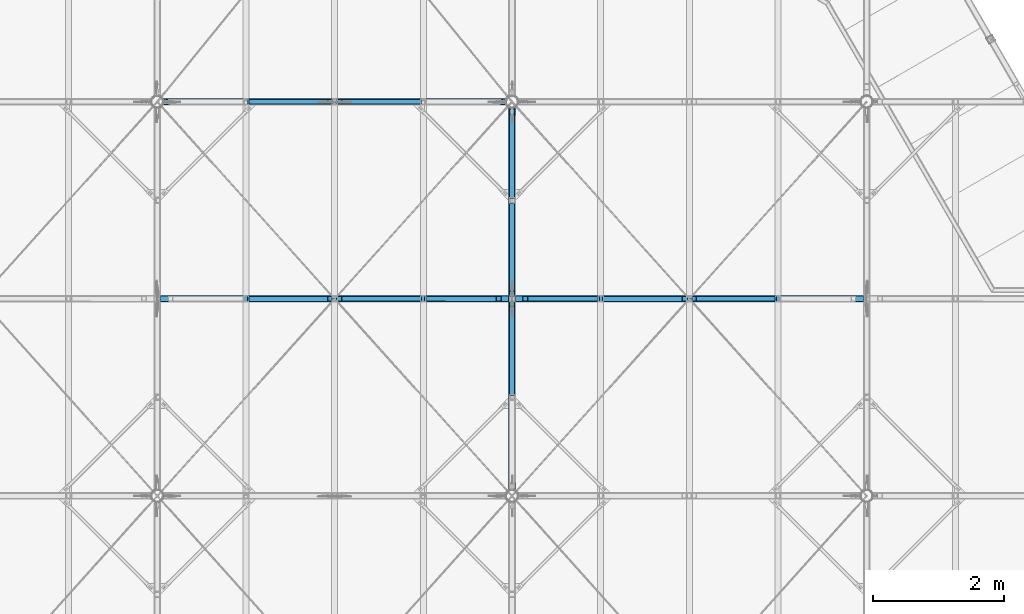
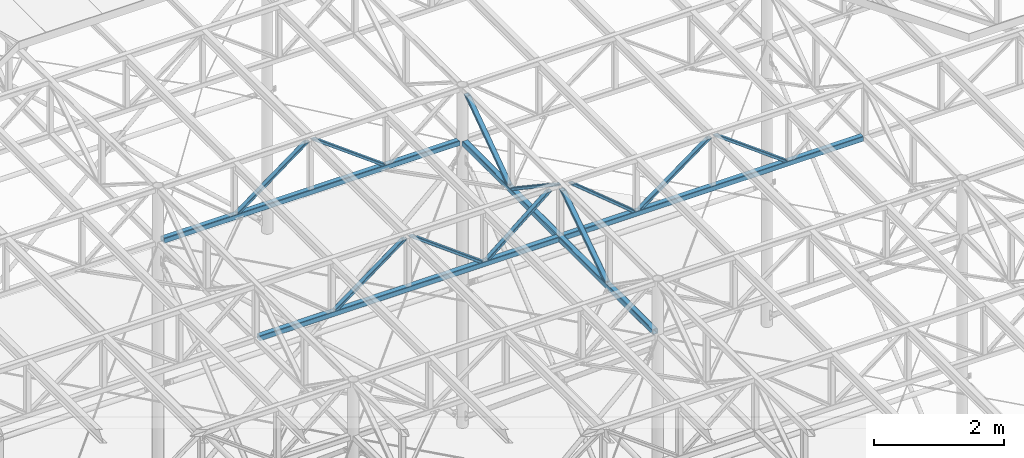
# One storey, part 56 of 132: 15 discrete accessories, 4 elements without a shape of their own.
"""IFC2X3 building model written with IfcOpenShell, lengths in millimetres."""

from ifc_helpers import new_model, si_unit, frame, origin_with_axes, origin_2d_with_axis, place, context, subcontext, project, spatial, hollow_rectangle, circle, extrude, boolean, halfspace, material, type_object, element, aggregate, save


model = new_model("IFC2X3")

# Units and contexts
model_context = context("Model", 3, precision=1e-05, world=origin_with_axes())
body_context = subcontext(model_context, "Body", "Model", "MODEL_VIEW")
ifc_project = project(units=[si_unit("LENGTHUNIT", "METRE", prefix="MILLI"), si_unit("AREAUNIT", "SQUARE_METRE"), si_unit("VOLUMEUNIT", "CUBIC_METRE"), si_unit("MASSUNIT", "GRAM", prefix="KILO"), si_unit("TIMEUNIT", "SECOND"), si_unit("PLANEANGLEUNIT", "RADIAN"), si_unit("SOLIDANGLEUNIT", "STERADIAN"), si_unit("THERMODYNAMICTEMPERATUREUNIT", "DEGREE_CELSIUS"), si_unit("LUMINOUSINTENSITYUNIT", "LUMEN")], contexts=[model_context])

# Site, building, storey
site_placement = place(None, origin_with_axes())
site = spatial("IfcSite", under=ifc_project, at=site_placement, Name="Budowa", CompositionType="ELEMENT")
building_placement = place(site_placement, origin_with_axes())
building = spatial("IfcBuilding", under=site, at=building_placement, Name="Undefined", CompositionType="ELEMENT")
storey_placement = place(building_placement, origin_with_axes())
storey = spatial("IfcBuildingStorey", under=building, at=storey_placement, Name="Undefined", CompositionType="ELEMENT", Elevation=0.0)

# Assembly, discrete accessories
assembly_1_placement = place(storey_placement, origin_with_axes())
assembly_1 = element("IfcElementAssembly", 1, at=assembly_1_placement, inside=storey, Name="Steel Assembly", AssemblyPlace="NOTDEFINED", PredefinedType="RIGID_FRAME")
ifc_material = material(Name="STEEL/S235")
discrete_accessory_type = type_object("IfcDiscreteAccessoryType", Name="BEAM")
discrete_accessory_1_placement = place(assembly_1_placement, frame((14965.9999999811, 15000.0000000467, 13830.0), z_axis=(0.0, -1.0, 0.0), x_axis=(0.770567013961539, 0.0, -0.637358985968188)))
solid_1 = boolean("DIFFERENCE", boolean("DIFFERENCE", extrude(hollow_rectangle(XDim=90.0, YDim=90.0, WallThickness=6.0, InnerFilletRadius=6.0, OuterFilletRadius=12.0, at=origin_2d_with_axis()), frame((1537.1065565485, 38.528350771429, -6.22094376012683e-10), z_axis=(-0.637358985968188, 0.770567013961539, 0.0), x_axis=(-0.770567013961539, -0.637358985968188, 0.0)), (0.0, 0.0, 1.0), 900.0), halfspace(frame((1537.1065565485, 38.5283507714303, 999.999999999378), z_axis=(-0.637358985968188, 0.770567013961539, 0.0), x_axis=(-0.770567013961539, -0.637358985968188, 0.0)), True)), halfspace(frame((963.483469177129, 732.038663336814, 999.999999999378), z_axis=(0.637358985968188, -0.770567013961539, 0.0), x_axis=(0.770567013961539, 0.637358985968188, 0.0)), True))
discrete_accessory_1 = element("IfcDiscreteAccessory", 2, at=discrete_accessory_1_placement, type_object=discrete_accessory_type, material=ifc_material, Name="BEAM", ObjectType="RHS90*50*5", context=body_context, shape_type="CSG", body=[
    boolean("DIFFERENCE", boolean("DIFFERENCE", boolean("DIFFERENCE", extrude(hollow_rectangle(XDim=50.0, YDim=90.0, WallThickness=5.0, InnerFilletRadius=7.5, OuterFilletRadius=12.5, at=origin_2d_with_axis()), frame((1533.07734352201, 2.27373675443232e-12, 0.0), z_axis=(-1.0, 0.0, 0.0), x_axis=(0.0, -1.0, 0.0)), (0.0, 0.0, 1.0), 1497.18), solid_1), halfspace(frame((1537.1065565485, 38.5283507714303, 999.999999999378), z_axis=(-0.637358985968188, 0.770567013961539, 0.0), x_axis=(-0.770567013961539, -0.637358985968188, 0.0)), True)), halfspace(frame((31.867949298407, -38.5283506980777, 1000.0), z_axis=(0.637358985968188, -0.770567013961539, 0.0), x_axis=(0.770567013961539, 0.637358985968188, 0.0)), True)),
])
discrete_accessory_2_placement = place(assembly_1_placement, frame((17524.9999999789, 15000.0000000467, 13830.0), z_axis=(0.0, -1.0, 0.0), x_axis=(-0.803557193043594, 0.0, -0.595227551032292)))
solid_2 = boolean("DIFFERENCE", boolean("DIFFERENCE", extrude(hollow_rectangle(XDim=90.0, YDim=90.0, WallThickness=6.0, InnerFilletRadius=6.0, OuterFilletRadius=12.0, at=origin_2d_with_axis()), frame((565.466173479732, 763.379333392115, -6.22094376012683e-10), z_axis=(-0.595227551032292, -0.803557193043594, 0.0), x_axis=(0.803557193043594, -0.595227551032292, 0.0)), (0.0, 0.0, 1.0), 900.0), halfspace(frame((565.46617347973, 763.379333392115, 999.999999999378), z_axis=(-0.595227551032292, -0.803557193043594, 0.0), x_axis=(0.803557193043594, -0.595227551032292, 0.0)), True)), halfspace(frame((29.7613775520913, 40.1778596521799, 1000.0), z_axis=(0.595227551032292, 0.803557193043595, 0.0), x_axis=(-0.803557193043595, 0.595227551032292, 0.0)), True))
solid_3 = boolean("DIFFERENCE", boolean("DIFFERENCE", extrude(hollow_rectangle(XDim=90.0, YDim=90.0, WallThickness=6.0, InnerFilletRadius=6.0, OuterFilletRadius=12.0, at=origin_2d_with_axis()), frame((1650.26838408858, -40.1778605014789, -6.22094376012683e-10), z_axis=(-0.595227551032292, -0.803557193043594, 0.0), x_axis=(0.803557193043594, -0.595227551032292, 0.0)), (0.0, 0.0, 1.0), 900.0), halfspace(frame((1650.2683829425, -40.1778596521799, 1000.0), z_axis=(-0.595227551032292, -0.803557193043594, 0.0), x_axis=(0.803557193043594, -0.595227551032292, 0.0)), True)), halfspace(frame((1114.56358815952, -763.379334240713, 999.999999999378), z_axis=(0.595227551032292, 0.803557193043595, 0.0), x_axis=(-0.803557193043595, 0.595227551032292, 0.0)), True))
discrete_accessory_2 = element("IfcDiscreteAccessory", 3, at=discrete_accessory_2_placement, type_object=discrete_accessory_type, material=ifc_material, Name="BEAM", ObjectType="RHS90*50*5", context=body_context, shape_type="CSG", body=[
    boolean("DIFFERENCE", boolean("DIFFERENCE", boolean("DIFFERENCE", boolean("DIFFERENCE", extrude(hollow_rectangle(XDim=50.0, YDim=90.0, WallThickness=5.0, InnerFilletRadius=7.5, OuterFilletRadius=12.5, at=origin_2d_with_axis()), frame((1632.54994793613, 0.0, 0.0), z_axis=(-1.0, 0.0, 0.0), x_axis=(0.0, -1.0, 0.0)), (0.0, 0.0, 1.0), 1585.07), solid_2), solid_3), halfspace(frame((1650.2683829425, -40.1778596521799, 1000.0), z_axis=(-0.595227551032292, -0.803557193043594, 0.0), x_axis=(0.803557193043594, -0.595227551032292, 0.0)), True)), halfspace(frame((29.7613775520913, 40.1778596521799, 1000.0), z_axis=(0.595227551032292, 0.803557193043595, 0.0), x_axis=(-0.803557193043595, 0.595227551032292, 0.0)), True)),
])
discrete_accessory_3_placement = place(assembly_1_placement, frame((17524.9999999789, 15000.0000000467, 13830.0), z_axis=(0.0, -1.0, 0.0), x_axis=(0.803557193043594, 0.0, -0.595227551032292)))
solid_4 = boolean("DIFFERENCE", boolean("DIFFERENCE", extrude(hollow_rectangle(XDim=90.0, YDim=90.0, WallThickness=6.0, InnerFilletRadius=6.0, OuterFilletRadius=12.0, at=origin_2d_with_axis()), frame((1650.26838408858, 40.1778605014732, -6.22094376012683e-10), z_axis=(-0.595227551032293, 0.803557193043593, 0.0), x_axis=(-0.803557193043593, -0.595227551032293, 0.0)), (0.0, 0.0, 1.0), 900.0), halfspace(frame((1650.2683829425, 40.1778596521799, 1000.0), z_axis=(-0.595227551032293, 0.803557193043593, 0.0), x_axis=(-0.803557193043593, -0.595227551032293, 0.0)), True)), halfspace(frame((1114.56358815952, 763.379334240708, 999.999999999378), z_axis=(0.595227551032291, -0.803557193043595, 0.0), x_axis=(0.803557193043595, 0.595227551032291, 0.0)), True))
solid_5 = boolean("DIFFERENCE", boolean("DIFFERENCE", extrude(hollow_rectangle(XDim=90.0, YDim=90.0, WallThickness=6.0, InnerFilletRadius=6.0, OuterFilletRadius=12.0, at=origin_2d_with_axis()), frame((565.46617347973, -763.379333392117, -6.22094376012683e-10), z_axis=(-0.595227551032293, 0.803557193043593, 0.0), x_axis=(-0.803557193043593, -0.595227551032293, 0.0)), (0.0, 0.0, 1.0), 900.0), halfspace(frame((565.46617347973, -763.37933339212, 999.999999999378), z_axis=(-0.595227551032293, 0.803557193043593, 0.0), x_axis=(-0.803557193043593, -0.595227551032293, 0.0)), True)), halfspace(frame((29.7613775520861, -40.1778596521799, 1000.0), z_axis=(0.595227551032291, -0.803557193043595, 0.0), x_axis=(0.803557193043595, 0.595227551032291, 0.0)), True))
discrete_accessory_3 = element("IfcDiscreteAccessory", 4, at=discrete_accessory_3_placement, type_object=discrete_accessory_type, material=ifc_material, Name="BEAM", ObjectType="RHS90*50*5", context=body_context, shape_type="CSG", body=[
    boolean("DIFFERENCE", boolean("DIFFERENCE", boolean("DIFFERENCE", boolean("DIFFERENCE", extrude(hollow_rectangle(XDim=50.0, YDim=90.0, WallThickness=5.0, InnerFilletRadius=7.5, OuterFilletRadius=12.5, at=origin_2d_with_axis()), frame((1632.54994793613, 0.0, 0.0), z_axis=(-1.0, 0.0, 0.0), x_axis=(0.0, -1.0, 0.0)), (0.0, 0.0, 1.0), 1585.07), solid_4), solid_5), halfspace(frame((1650.2683829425, 40.1778596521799, 1000.0), z_axis=(-0.595227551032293, 0.803557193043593, 0.0), x_axis=(-0.803557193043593, -0.595227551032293, 0.0)), True)), halfspace(frame((29.7613775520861, -40.1778596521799, 1000.0), z_axis=(0.595227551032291, -0.803557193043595, 0.0), x_axis=(0.803557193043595, 0.595227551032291, 0.0)), True)),
])
discrete_accessory_4_placement = place(assembly_1_placement, frame((14874.9999999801, 15000.0000000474, 12830.0), z_axis=(0.0, -1.0, 0.0), x_axis=(1.0, 0.0, 0.0)))
discrete_accessory_4 = element("IfcDiscreteAccessory", 5, at=discrete_accessory_4_placement, type_object=discrete_accessory_type, material=ifc_material, Name="BEAM", ObjectType="SHS100*8", context=body_context, shape_type="SweptSolid", body=[
    extrude(hollow_rectangle(XDim=100.0, YDim=100.0, WallThickness=8.0, InnerFilletRadius=8.0, OuterFilletRadius=16.0, at=origin_2d_with_axis()), frame((5300.0, 0.0, 0.0), z_axis=(-1.0, 0.0, 0.0), x_axis=(0.0, -1.0, 0.0)), (0.0, 0.0, 1.0), 5300.0),
])
aggregate(assembly_1, [discrete_accessory_1, discrete_accessory_2, discrete_accessory_3, discrete_accessory_4])

assembly_2_placement = place(storey_placement, origin_with_axes())
assembly_2 = element("IfcElementAssembly", 6, at=assembly_2_placement, inside=storey, Name="Steel Assembly", AssemblyPlace="NOTDEFINED", PredefinedType="RIGID_FRAME")
discrete_accessory_5_placement = place(assembly_2_placement, frame((14683.9999999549, 15000.0000000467, 13830.0), z_axis=(0.0, -1.0, 0.0), x_axis=(-0.770567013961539, 0.0, -0.637358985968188)))
solid_6 = boolean("DIFFERENCE", boolean("DIFFERENCE", extrude(hollow_rectangle(XDim=90.0, YDim=90.0, WallThickness=6.0, InnerFilletRadius=6.0, OuterFilletRadius=12.0, at=origin_2d_with_axis()), frame((1537.1065565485, -38.5283507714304, -6.22094376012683e-10), z_axis=(-0.637358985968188, -0.770567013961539, 0.0), x_axis=(0.770567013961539, -0.637358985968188, 0.0)), (0.0, 0.0, 1.0), 900.0), halfspace(frame((1537.1065565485, -38.5283507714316, 999.999999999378), z_axis=(-0.637358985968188, -0.770567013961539, 0.0), x_axis=(0.770567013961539, -0.637358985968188, 0.0)), True)), halfspace(frame((963.483469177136, -732.038663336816, 999.999999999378), z_axis=(0.637358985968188, 0.770567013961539, 0.0), x_axis=(-0.770567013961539, 0.637358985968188, 0.0)), True))
discrete_accessory_5 = element("IfcDiscreteAccessory", 7, at=discrete_accessory_5_placement, type_object=discrete_accessory_type, material=ifc_material, Name="BEAM", ObjectType="RHS90*50*5", context=body_context, shape_type="CSG", body=[
    boolean("DIFFERENCE", boolean("DIFFERENCE", boolean("DIFFERENCE", extrude(hollow_rectangle(XDim=50.0, YDim=90.0, WallThickness=5.0, InnerFilletRadius=7.5, OuterFilletRadius=12.5, at=origin_2d_with_axis()), frame((1533.07734352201, 2.27373675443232e-12, 0.0), z_axis=(-1.0, 0.0, 0.0), x_axis=(0.0, -1.0, 0.0)), (0.0, 0.0, 1.0), 1497.18), solid_6), halfspace(frame((1537.1065565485, -38.5283507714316, 999.999999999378), z_axis=(-0.637358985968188, -0.770567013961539, 0.0), x_axis=(0.770567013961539, -0.637358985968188, 0.0)), True)), halfspace(frame((31.867949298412, 38.52835069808, 1000.0), z_axis=(0.637358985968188, 0.770567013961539, 0.0), x_axis=(-0.770567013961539, 0.637358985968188, 0.0)), True)),
])
discrete_accessory_6_placement = place(assembly_2_placement, frame((12124.9999999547, 15000.0000000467, 13830.0), z_axis=(0.0, -1.0, 0.0), x_axis=(-0.803557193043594, 0.0, -0.595227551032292)))
solid_7 = boolean("DIFFERENCE", boolean("DIFFERENCE", extrude(hollow_rectangle(XDim=90.0, YDim=90.0, WallThickness=6.0, InnerFilletRadius=6.0, OuterFilletRadius=12.0, at=origin_2d_with_axis()), frame((565.466173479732, 763.379333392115, -6.22094376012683e-10), z_axis=(-0.595227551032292, -0.803557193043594, 0.0), x_axis=(0.803557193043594, -0.595227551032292, 0.0)), (0.0, 0.0, 1.0), 900.0), halfspace(frame((565.46617347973, 763.379333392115, 999.999999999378), z_axis=(-0.595227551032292, -0.803557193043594, 0.0), x_axis=(0.803557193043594, -0.595227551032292, 0.0)), True)), halfspace(frame((29.7613775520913, 40.1778596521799, 1000.0), z_axis=(0.595227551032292, 0.803557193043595, 0.0), x_axis=(-0.803557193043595, 0.595227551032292, 0.0)), True))
solid_8 = boolean("DIFFERENCE", boolean("DIFFERENCE", extrude(hollow_rectangle(XDim=90.0, YDim=90.0, WallThickness=6.0, InnerFilletRadius=6.0, OuterFilletRadius=12.0, at=origin_2d_with_axis()), frame((1650.26838408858, -40.1778605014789, -6.22094376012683e-10), z_axis=(-0.595227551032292, -0.803557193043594, 0.0), x_axis=(0.803557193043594, -0.595227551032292, 0.0)), (0.0, 0.0, 1.0), 900.0), halfspace(frame((1650.2683829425, -40.1778596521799, 1000.0), z_axis=(-0.595227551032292, -0.803557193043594, 0.0), x_axis=(0.803557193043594, -0.595227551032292, 0.0)), True)), halfspace(frame((1114.56358815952, -763.379334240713, 999.999999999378), z_axis=(0.595227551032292, 0.803557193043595, 0.0), x_axis=(-0.803557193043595, 0.595227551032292, 0.0)), True))
discrete_accessory_6 = element("IfcDiscreteAccessory", 8, at=discrete_accessory_6_placement, type_object=discrete_accessory_type, material=ifc_material, Name="BEAM", ObjectType="RHS90*50*5", context=body_context, shape_type="CSG", body=[
    boolean("DIFFERENCE", boolean("DIFFERENCE", boolean("DIFFERENCE", boolean("DIFFERENCE", extrude(hollow_rectangle(XDim=50.0, YDim=90.0, WallThickness=5.0, InnerFilletRadius=7.5, OuterFilletRadius=12.5, at=origin_2d_with_axis()), frame((1632.54994793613, 0.0, 0.0), z_axis=(-1.0, 0.0, 0.0), x_axis=(0.0, -1.0, 0.0)), (0.0, 0.0, 1.0), 1585.07), solid_7), solid_8), halfspace(frame((1650.2683829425, -40.1778596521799, 1000.0), z_axis=(-0.595227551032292, -0.803557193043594, 0.0), x_axis=(0.803557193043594, -0.595227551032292, 0.0)), True)), halfspace(frame((29.7613775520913, 40.1778596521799, 1000.0), z_axis=(0.595227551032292, 0.803557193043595, 0.0), x_axis=(-0.803557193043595, 0.595227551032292, 0.0)), True)),
])
discrete_accessory_7_placement = place(assembly_2_placement, frame((12124.9999999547, 15000.0000000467, 13830.0), z_axis=(0.0, -1.0, 0.0), x_axis=(0.803557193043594, 0.0, -0.595227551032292)))
solid_9 = boolean("DIFFERENCE", boolean("DIFFERENCE", extrude(hollow_rectangle(XDim=90.0, YDim=90.0, WallThickness=6.0, InnerFilletRadius=6.0, OuterFilletRadius=12.0, at=origin_2d_with_axis()), frame((1650.26838408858, 40.1778605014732, -6.22094376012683e-10), z_axis=(-0.595227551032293, 0.803557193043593, 0.0), x_axis=(-0.803557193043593, -0.595227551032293, 0.0)), (0.0, 0.0, 1.0), 900.0), halfspace(frame((1650.2683829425, 40.1778596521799, 1000.0), z_axis=(-0.595227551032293, 0.803557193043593, 0.0), x_axis=(-0.803557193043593, -0.595227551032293, 0.0)), True)), halfspace(frame((1114.56358815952, 763.379334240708, 999.999999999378), z_axis=(0.595227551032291, -0.803557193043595, 0.0), x_axis=(0.803557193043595, 0.595227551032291, 0.0)), True))
solid_10 = boolean("DIFFERENCE", boolean("DIFFERENCE", extrude(hollow_rectangle(XDim=90.0, YDim=90.0, WallThickness=6.0, InnerFilletRadius=6.0, OuterFilletRadius=12.0, at=origin_2d_with_axis()), frame((565.46617347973, -763.379333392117, -6.22094376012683e-10), z_axis=(-0.595227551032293, 0.803557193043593, 0.0), x_axis=(-0.803557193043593, -0.595227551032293, 0.0)), (0.0, 0.0, 1.0), 900.0), halfspace(frame((565.46617347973, -763.37933339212, 999.999999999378), z_axis=(-0.595227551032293, 0.803557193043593, 0.0), x_axis=(-0.803557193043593, -0.595227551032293, 0.0)), True)), halfspace(frame((29.7613775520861, -40.1778596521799, 1000.0), z_axis=(0.595227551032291, -0.803557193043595, 0.0), x_axis=(0.803557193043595, 0.595227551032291, 0.0)), True))
discrete_accessory_7 = element("IfcDiscreteAccessory", 9, at=discrete_accessory_7_placement, type_object=discrete_accessory_type, material=ifc_material, Name="BEAM", ObjectType="RHS90*50*5", context=body_context, shape_type="CSG", body=[
    boolean("DIFFERENCE", boolean("DIFFERENCE", boolean("DIFFERENCE", boolean("DIFFERENCE", extrude(hollow_rectangle(XDim=50.0, YDim=90.0, WallThickness=5.0, InnerFilletRadius=7.5, OuterFilletRadius=12.5, at=origin_2d_with_axis()), frame((1632.54994793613, 0.0, 0.0), z_axis=(-1.0, 0.0, 0.0), x_axis=(0.0, -1.0, 0.0)), (0.0, 0.0, 1.0), 1585.07), solid_9), solid_10), halfspace(frame((1650.2683829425, 40.1778596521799, 1000.0), z_axis=(-0.595227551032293, 0.803557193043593, 0.0), x_axis=(-0.803557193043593, -0.595227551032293, 0.0)), True)), halfspace(frame((29.7613775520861, -40.1778596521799, 1000.0), z_axis=(0.595227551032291, -0.803557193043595, 0.0), x_axis=(0.803557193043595, 0.595227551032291, 0.0)), True)),
])
discrete_accessory_8_placement = place(assembly_2_placement, frame((9474.9999999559, 15000.0000000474, 12830.0), z_axis=(0.0, -1.0, 0.0), x_axis=(1.0, 0.0, 0.0)))
discrete_accessory_8 = element("IfcDiscreteAccessory", 10, at=discrete_accessory_8_placement, type_object=discrete_accessory_type, material=ifc_material, Name="BEAM", ObjectType="SHS100*8", context=body_context, shape_type="SweptSolid", body=[
    extrude(hollow_rectangle(XDim=100.0, YDim=100.0, WallThickness=8.0, InnerFilletRadius=8.0, OuterFilletRadius=16.0, at=origin_2d_with_axis()), frame((5300.0, 0.0, 0.0), z_axis=(-1.0, 0.0, 0.0), x_axis=(0.0, -1.0, 0.0)), (0.0, 0.0, 1.0), 5300.0),
])
aggregate(assembly_2, [discrete_accessory_5, discrete_accessory_6, discrete_accessory_7, discrete_accessory_8])

assembly_3_placement = place(storey_placement, origin_with_axes())
assembly_3 = element("IfcElementAssembly", 11, at=assembly_3_placement, inside=storey, Name="Steel Assembly", AssemblyPlace="NOTDEFINED", PredefinedType="RIGID_FRAME")
discrete_accessory_9_placement = place(assembly_3_placement, frame((14824.9999999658, 16500.0000000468, 12829.9999999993), z_axis=(1.0, 0.0, 0.0), x_axis=(0.0, 0.817796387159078, 0.575507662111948)))
solid_11 = boolean("DIFFERENCE", boolean("DIFFERENCE", extrude(hollow_rectangle(XDim=90.0, YDim=90.0, WallThickness=6.0, InnerFilletRadius=6.0, OuterFilletRadius=12.0, at=origin_2d_with_axis()), frame((28.7753831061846, 40.8898193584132, 2.20825313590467e-09), z_axis=(0.575507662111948, 0.817796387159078, 0.0), x_axis=(-0.817796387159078, 0.575507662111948, 0.0)), (0.0, 0.0, 1.0), 900.0), halfspace(frame((28.7753831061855, 40.8898193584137, 1000.00000000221), z_axis=(0.575507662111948, 0.817796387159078, 0.0), x_axis=(-0.817796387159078, 0.575507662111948, 0.0)), True)), halfspace(frame((546.732279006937, 776.906567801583, 1000.00000000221), z_axis=(-0.575507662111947, -0.817796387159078, 0.0), x_axis=(0.817796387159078, -0.575507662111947, 0.0)), True))
discrete_accessory_9 = element("IfcDiscreteAccessory", 12, at=discrete_accessory_9_placement, type_object=discrete_accessory_type, material=ifc_material, Name="BEAM", ObjectType="RHS90*50*5", context=body_context, shape_type="CSG", body=[
    boolean("DIFFERENCE", boolean("DIFFERENCE", boolean("DIFFERENCE", extrude(hollow_rectangle(XDim=50.0, YDim=90.0, WallThickness=5.0, InnerFilletRadius=7.5, OuterFilletRadius=12.5, at=origin_2d_with_axis()), frame((1708.11339266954, 0.0, 0.0), z_axis=(-1.0, 0.0, 0.0), x_axis=(0.0, -1.0, 0.0)), (0.0, 0.0, 1.0), 1678.63), solid_11), halfspace(frame((1708.8209441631, -40.8898193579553, 1000.0), z_axis=(-0.575507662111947, -0.817796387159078, 0.0), x_axis=(0.817796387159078, -0.575507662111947, 0.0)), True)), halfspace(frame((28.7753831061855, 40.8898193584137, 1000.00000000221), z_axis=(0.575507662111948, 0.817796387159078, 0.0), x_axis=(-0.817796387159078, 0.575507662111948, 0.0)), True)),
])
discrete_accessory_10_placement = place(assembly_3_placement, frame((14824.9999999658, 16499.8000000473, 12829.9999999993), z_axis=(1.0, 0.0, 0.0), x_axis=(0.0, -0.832050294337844, 0.554700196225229)))
solid_12 = boolean("DIFFERENCE", boolean("DIFFERENCE", extrude(hollow_rectangle(XDim=90.0, YDim=90.0, WallThickness=6.0, InnerFilletRadius=6.0, OuterFilletRadius=12.0, at=origin_2d_with_axis()), frame((27.5685997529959, -41.7134547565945, 2.20825313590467e-09), z_axis=(0.554700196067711, -0.832050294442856, 1.11090858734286e-10), x_axis=(0.832050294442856, 0.554700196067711, 1.66635594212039e-10)), (0.0, 0.0, 1.0), 900.0), halfspace(frame((27.5685997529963, -41.7134547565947, 1000.00000000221), z_axis=(0.554700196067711, -0.832050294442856, 1.11090858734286e-10), x_axis=(0.832050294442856, 0.554700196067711, 1.66635594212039e-10)), True)), halfspace(frame((526.798776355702, -790.558719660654, 1000.00000000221), z_axis=(-0.554700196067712, 0.832050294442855, -1.1109021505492e-10), x_axis=(-0.832050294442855, -0.554700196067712, -1.66634890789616e-10)), True))
solid_13 = boolean("DIFFERENCE", boolean("DIFFERENCE", extrude(hollow_rectangle(XDim=90.0, YDim=90.0, WallThickness=6.0, InnerFilletRadius=6.0, OuterFilletRadius=12.0, at=origin_2d_with_axis()), frame((1275.64404125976, 790.336839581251, 2.20825313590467e-09), z_axis=(0.554700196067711, -0.832050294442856, 1.11090858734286e-10), x_axis=(0.832050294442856, 0.554700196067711, 1.66635594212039e-10)), (0.0, 0.0, 1.0), 900.0), halfspace(frame((1275.64404125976, 790.33683958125, 1000.00000000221), z_axis=(0.554700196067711, -0.832050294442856, 1.11090858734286e-10), x_axis=(0.832050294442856, 0.554700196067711, 1.66635594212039e-10)), True)), halfspace(frame((1774.87421786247, 41.4915746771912, 1000.00000000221), z_axis=(-0.554700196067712, 0.832050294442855, -1.1109021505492e-10), x_axis=(-0.832050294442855, -0.554700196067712, -1.66634890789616e-10)), True))
discrete_accessory_10 = element("IfcDiscreteAccessory", 13, at=discrete_accessory_10_placement, type_object=discrete_accessory_type, material=ifc_material, Name="BEAM", ObjectType="RHS90*50*5", context=body_context, shape_type="CSG", body=[
    boolean("DIFFERENCE", boolean("DIFFERENCE", boolean("DIFFERENCE", boolean("DIFFERENCE", extrude(hollow_rectangle(XDim=50.0, YDim=90.0, WallThickness=5.0, InnerFilletRadius=7.5, OuterFilletRadius=12.5, at=origin_2d_with_axis()), frame((1763.05910368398, 0.0, 0.0), z_axis=(-1.0, 0.0, 0.0), x_axis=(0.0, -1.0, 0.0)), (0.0, 0.0, 1.0), 1723.34), solid_12), solid_13), halfspace(frame((1775.04062824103, 41.6025147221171, 999.999999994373), z_axis=(-0.554700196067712, 0.832050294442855, -1.1109021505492e-10), x_axis=(-0.832050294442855, -0.554700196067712, -1.66634890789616e-10)), True)), halfspace(frame((27.7350096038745, -41.6025147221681, 1000.00000000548), z_axis=(0.554700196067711, -0.832050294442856, 1.11090858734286e-10), x_axis=(0.832050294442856, 0.554700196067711, 1.66635594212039e-10)), True)),
])
discrete_accessory_11_placement = place(assembly_3_placement, frame((14824.9999999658, 13500.0000000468, 12829.9999999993), z_axis=(1.0, 0.0, 0.0), x_axis=(0.0, 0.832050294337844, 0.554700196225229)))
solid_14 = boolean("DIFFERENCE", boolean("DIFFERENCE", extrude(hollow_rectangle(XDim=90.0, YDim=90.0, WallThickness=6.0, InnerFilletRadius=6.0, OuterFilletRadius=12.0, at=origin_2d_with_axis()), frame((1275.81045145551, -790.447779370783, -2.51850795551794e-07), z_axis=(0.554700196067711, 0.832050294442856, -1.11090858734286e-10), x_axis=(-0.832050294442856, 0.554700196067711, 1.66634595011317e-10)), (0.0, 0.0, 1.0), 900.0), halfspace(frame((1275.81045165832, -790.447779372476, 999.999999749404), z_axis=(0.554700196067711, 0.832050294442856, -1.11090858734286e-10), x_axis=(-0.832050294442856, 0.554700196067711, 1.66634595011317e-10)), True)), halfspace(frame((1775.04062811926, -41.6025143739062, 999.999999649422), z_axis=(-0.554700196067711, -0.832050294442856, 1.11091980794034e-10), x_axis=(0.832050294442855, -0.554700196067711, -1.66634436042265e-10)), True))
solid_15 = boolean("DIFFERENCE", boolean("DIFFERENCE", extrude(hollow_rectangle(XDim=90.0, YDim=90.0, WallThickness=6.0, InnerFilletRadius=6.0, OuterFilletRadius=12.0, at=origin_2d_with_axis()), frame((27.7350097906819, 41.6025147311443, -4.89933715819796e-09), z_axis=(0.554700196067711, 0.832050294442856, -1.11090858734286e-10), x_axis=(-0.832050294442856, 0.554700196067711, 1.66634595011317e-10)), (0.0, 0.0, 1.0), 900.0), halfspace(frame((27.7350099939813, 41.6025147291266, 999.999999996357), z_axis=(0.554700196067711, 0.832050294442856, -1.11090858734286e-10), x_axis=(-0.832050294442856, 0.554700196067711, 1.66634595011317e-10)), True)), halfspace(frame((526.965186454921, 790.447779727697, 999.999999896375), z_axis=(-0.554700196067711, -0.832050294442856, 1.11091980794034e-10), x_axis=(0.832050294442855, -0.554700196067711, -1.66634436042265e-10)), True))
discrete_accessory_11 = element("IfcDiscreteAccessory", 14, at=discrete_accessory_11_placement, type_object=discrete_accessory_type, material=ifc_material, Name="BEAM", ObjectType="RHS90*50*5", context=body_context, shape_type="CSG", body=[
    boolean("DIFFERENCE", boolean("DIFFERENCE", boolean("DIFFERENCE", boolean("DIFFERENCE", extrude(hollow_rectangle(XDim=50.0, YDim=90.0, WallThickness=5.0, InnerFilletRadius=7.5, OuterFilletRadius=12.5, at=origin_2d_with_axis()), frame((1763.05910368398, 0.0, 0.0), z_axis=(-1.0, 0.0, 0.0), x_axis=(0.0, -1.0, 0.0)), (0.0, 0.0, 1.0), 1723.34), solid_14), solid_15), halfspace(frame((1775.04062811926, -41.6025143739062, 999.999999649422), z_axis=(-0.554700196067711, -0.832050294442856, 1.11091980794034e-10), x_axis=(0.832050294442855, -0.554700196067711, -1.66634436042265e-10)), True)), halfspace(frame((27.7350099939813, 41.6025147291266, 999.999999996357), z_axis=(0.554700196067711, 0.832050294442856, -1.11090858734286e-10), x_axis=(-0.832050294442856, 0.554700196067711, 1.66634595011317e-10)), True)),
])
discrete_accessory_12_placement = place(assembly_3_placement, frame((14824.999999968, 12088.900000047, 12830.0), z_axis=(1.0, 0.0, 0.0), x_axis=(0.0, 1.0, 0.0)))
discrete_accessory_12 = element("IfcDiscreteAccessory", 15, at=discrete_accessory_12_placement, type_object=discrete_accessory_type, material=ifc_material, Name="BEAM", ObjectType="SHS100*8", context=body_context, shape_type="CSG", body=[
    boolean("DIFFERENCE", boolean("DIFFERENCE", boolean("DIFFERENCE", boolean("DIFFERENCE", extrude(hollow_rectangle(XDim=100.0, YDim=100.0, WallThickness=8.0, InnerFilletRadius=8.0, OuterFilletRadius=16.0, at=origin_2d_with_axis()), frame((5911.09999999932, 0.0, 0.0), z_axis=(-1.0, 0.0, 0.0), x_axis=(0.0, -1.0, 0.0)), (0.0, 0.0, 1.0), 6000.0), extrude(circle(Radius=89.9, at=origin_2d_with_axis()), frame((5911.09999999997, 1950.0, 0.0), z_axis=(0.0, -1.0, 0.0), x_axis=(-1.0, 0.0, 0.0)), (0.0, 0.0, 1.0), 2100.0)), extrude(circle(Radius=89.9, at=origin_2d_with_axis()), frame((-88.9000000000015, 1950.0, -5.45696821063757e-12), z_axis=(0.0, -1.0, 0.0), x_axis=(-1.0, 0.0, 0.0)), (0.0, 0.0, 1.0), 2100.0)), halfspace(frame((5911.09999999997, -5339.0, 0.0), z_axis=(-1.0, 0.0, 0.0), x_axis=(0.0, 0.0, -1.0)), True)), halfspace(frame((-88.9000000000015, -5339.0, -5.45696821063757e-12), z_axis=(-1.0, 0.0, 0.0), x_axis=(0.0, 0.0, -1.0)), False)),
])
aggregate(assembly_3, [discrete_accessory_9, discrete_accessory_10, discrete_accessory_11, discrete_accessory_12])

assembly_4_placement = place(storey_placement, origin_with_axes())
assembly_4 = element("IfcElementAssembly", 16, at=assembly_4_placement, inside=storey, Name="Steel Assembly", AssemblyPlace="NOTDEFINED", PredefinedType="RIGID_FRAME")
discrete_accessory_13_placement = place(assembly_4_placement, frame((12124.9999999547, 18000.0000000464, 13830.0), z_axis=(0.0, -1.0, 0.0), x_axis=(-0.803557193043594, 0.0, -0.595227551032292)))
solid_16 = boolean("DIFFERENCE", boolean("DIFFERENCE", extrude(hollow_rectangle(XDim=90.0, YDim=90.0, WallThickness=6.0, InnerFilletRadius=6.0, OuterFilletRadius=12.0, at=origin_2d_with_axis()), frame((565.466173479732, 763.379333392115, -6.22094376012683e-10), z_axis=(-0.595227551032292, -0.803557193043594, 0.0), x_axis=(0.803557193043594, -0.595227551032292, 0.0)), (0.0, 0.0, 1.0), 900.0), halfspace(frame((565.46617347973, 763.379333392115, 999.999999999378), z_axis=(-0.595227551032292, -0.803557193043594, 0.0), x_axis=(0.803557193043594, -0.595227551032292, 0.0)), True)), halfspace(frame((29.7613775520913, 40.1778596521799, 1000.0), z_axis=(0.595227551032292, 0.803557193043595, 0.0), x_axis=(-0.803557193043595, 0.595227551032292, 0.0)), True))
solid_17 = boolean("DIFFERENCE", boolean("DIFFERENCE", extrude(hollow_rectangle(XDim=90.0, YDim=90.0, WallThickness=6.0, InnerFilletRadius=6.0, OuterFilletRadius=12.0, at=origin_2d_with_axis()), frame((1650.26838408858, -40.1778605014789, -6.22094376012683e-10), z_axis=(-0.595227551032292, -0.803557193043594, 0.0), x_axis=(0.803557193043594, -0.595227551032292, 0.0)), (0.0, 0.0, 1.0), 900.0), halfspace(frame((1650.2683829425, -40.1778596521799, 1000.0), z_axis=(-0.595227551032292, -0.803557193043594, 0.0), x_axis=(0.803557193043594, -0.595227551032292, 0.0)), True)), halfspace(frame((1114.56358815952, -763.379334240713, 999.999999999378), z_axis=(0.595227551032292, 0.803557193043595, 0.0), x_axis=(-0.803557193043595, 0.595227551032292, 0.0)), True))
discrete_accessory_13 = element("IfcDiscreteAccessory", 17, at=discrete_accessory_13_placement, type_object=discrete_accessory_type, material=ifc_material, Name="BEAM", ObjectType="RHS90*50*5", context=body_context, shape_type="CSG", body=[
    boolean("DIFFERENCE", boolean("DIFFERENCE", boolean("DIFFERENCE", boolean("DIFFERENCE", extrude(hollow_rectangle(XDim=50.0, YDim=90.0, WallThickness=5.0, InnerFilletRadius=7.5, OuterFilletRadius=12.5, at=origin_2d_with_axis()), frame((1632.54994793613, 0.0, 0.0), z_axis=(-1.0, 0.0, 0.0), x_axis=(0.0, -1.0, 0.0)), (0.0, 0.0, 1.0), 1585.07), solid_16), solid_17), halfspace(frame((1650.2683829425, -40.1778596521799, 1000.0), z_axis=(-0.595227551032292, -0.803557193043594, 0.0), x_axis=(0.803557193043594, -0.595227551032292, 0.0)), True)), halfspace(frame((29.7613775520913, 40.1778596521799, 1000.0), z_axis=(0.595227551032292, 0.803557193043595, 0.0), x_axis=(-0.803557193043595, 0.595227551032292, 0.0)), True)),
])
discrete_accessory_14_placement = place(assembly_4_placement, frame((12124.9999999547, 18000.0000000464, 13830.0), z_axis=(0.0, -1.0, 0.0), x_axis=(0.803557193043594, 0.0, -0.595227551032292)))
solid_18 = boolean("DIFFERENCE", boolean("DIFFERENCE", extrude(hollow_rectangle(XDim=90.0, YDim=90.0, WallThickness=6.0, InnerFilletRadius=6.0, OuterFilletRadius=12.0, at=origin_2d_with_axis()), frame((1650.26838408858, 40.1778605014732, -6.22094376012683e-10), z_axis=(-0.595227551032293, 0.803557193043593, 0.0), x_axis=(-0.803557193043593, -0.595227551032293, 0.0)), (0.0, 0.0, 1.0), 900.0), halfspace(frame((1650.2683829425, 40.1778596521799, 1000.0), z_axis=(-0.595227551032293, 0.803557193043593, 0.0), x_axis=(-0.803557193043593, -0.595227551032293, 0.0)), True)), halfspace(frame((1114.56358815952, 763.379334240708, 999.999999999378), z_axis=(0.595227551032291, -0.803557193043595, 0.0), x_axis=(0.803557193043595, 0.595227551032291, 0.0)), True))
solid_19 = boolean("DIFFERENCE", boolean("DIFFERENCE", extrude(hollow_rectangle(XDim=90.0, YDim=90.0, WallThickness=6.0, InnerFilletRadius=6.0, OuterFilletRadius=12.0, at=origin_2d_with_axis()), frame((565.46617347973, -763.379333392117, -6.22094376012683e-10), z_axis=(-0.595227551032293, 0.803557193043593, 0.0), x_axis=(-0.803557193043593, -0.595227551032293, 0.0)), (0.0, 0.0, 1.0), 900.0), halfspace(frame((565.46617347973, -763.37933339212, 999.999999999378), z_axis=(-0.595227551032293, 0.803557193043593, 0.0), x_axis=(-0.803557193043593, -0.595227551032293, 0.0)), True)), halfspace(frame((29.7613775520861, -40.1778596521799, 1000.0), z_axis=(0.595227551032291, -0.803557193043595, 0.0), x_axis=(0.803557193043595, 0.595227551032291, 0.0)), True))
discrete_accessory_14 = element("IfcDiscreteAccessory", 18, at=discrete_accessory_14_placement, type_object=discrete_accessory_type, material=ifc_material, Name="BEAM", ObjectType="RHS90*50*5", context=body_context, shape_type="CSG", body=[
    boolean("DIFFERENCE", boolean("DIFFERENCE", boolean("DIFFERENCE", boolean("DIFFERENCE", extrude(hollow_rectangle(XDim=50.0, YDim=90.0, WallThickness=5.0, InnerFilletRadius=7.5, OuterFilletRadius=12.5, at=origin_2d_with_axis()), frame((1632.54994793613, 0.0, 0.0), z_axis=(-1.0, 0.0, 0.0), x_axis=(0.0, -1.0, 0.0)), (0.0, 0.0, 1.0), 1585.07), solid_18), solid_19), halfspace(frame((1650.2683829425, 40.1778596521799, 1000.0), z_axis=(-0.595227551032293, 0.803557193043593, 0.0), x_axis=(-0.803557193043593, -0.595227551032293, 0.0)), True)), halfspace(frame((29.7613775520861, -40.1778596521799, 1000.0), z_axis=(0.595227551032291, -0.803557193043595, 0.0), x_axis=(0.803557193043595, 0.595227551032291, 0.0)), True)),
])
discrete_accessory_15_placement = place(assembly_4_placement, frame((9513.99999995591, 18000.000000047, 12830.0), z_axis=(0.0, -1.0, 0.0), x_axis=(1.0, 0.0, 0.0)))
discrete_accessory_15 = element("IfcDiscreteAccessory", 19, at=discrete_accessory_15_placement, type_object=discrete_accessory_type, material=ifc_material, Name="BEAM", ObjectType="SHS100*8", context=body_context, shape_type="CSG", body=[
    boolean("DIFFERENCE", boolean("DIFFERENCE", boolean("DIFFERENCE", boolean("DIFFERENCE", extrude(hollow_rectangle(XDim=100.0, YDim=100.0, WallThickness=8.0, InnerFilletRadius=8.0, OuterFilletRadius=16.0, at=origin_2d_with_axis()), frame((5311.00000001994, 0.0, 0.0), z_axis=(-1.0, 0.0, 0.0), x_axis=(0.0, -1.0, 0.0)), (0.0, 0.0, 1.0), 5400.0), extrude(circle(Radius=89.9, at=origin_2d_with_axis()), frame((-89.0000000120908, 1950.0, 1.09139364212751e-11), z_axis=(0.0, -1.0, 0.0), x_axis=(0.0, 0.0, 1.0)), (0.0, 0.0, 1.0), 2100.0)), extrude(circle(Radius=89.9, at=origin_2d_with_axis()), frame((5311.00000001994, 1950.0, 7.27595761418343e-12), z_axis=(0.0, -1.0, 0.0), x_axis=(0.0, 0.0, 1.0)), (0.0, 0.0, 1.0), 2100.0)), halfspace(frame((5311.00000001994, -5339.0, 7.27595761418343e-12), z_axis=(-1.0, 0.0, 0.0), x_axis=(0.0, 0.0, -1.0)), True)), halfspace(frame((-89.0000000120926, -5339.0, 1.09139364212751e-11), z_axis=(-1.0, 0.0, 0.0), x_axis=(0.0, 0.0, -1.0)), False)),
])
aggregate(assembly_4, [discrete_accessory_13, discrete_accessory_14, discrete_accessory_15])

save(model, "model.ifc")
